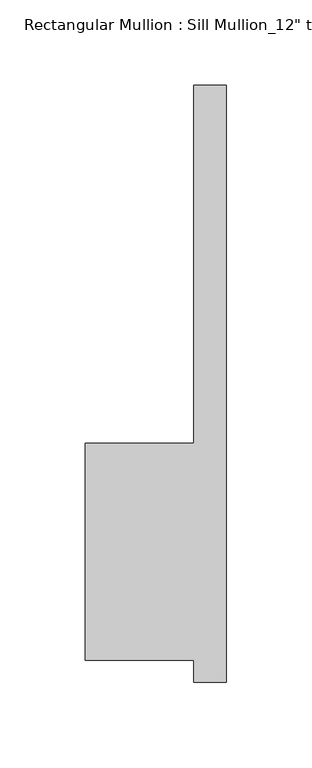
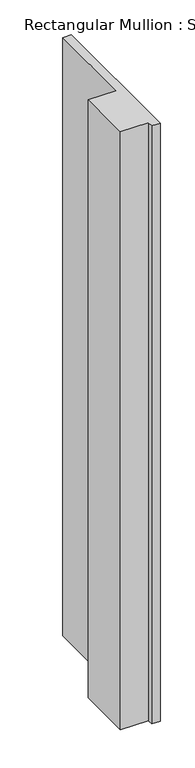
"""IFC4 building model written with IfcOpenShell, lengths in millimetres: member geometry."""

from ifc_helpers import new_model, si_unit, frame, origin, place, context, project, spatial, polyline, outline, extrude, source, transform, mapped, element, save


def member_1ed77558(model_context):
    return source(origin(), model_context, "Body", "SweptSolid", [
        extrude(outline(polyline([(-82.55, 50.8), (-19.05, 50.8), (-19.05, 260.35), (0.0, 260.35), (0.0, -88.9), (-19.05, -88.9), (-19.05, -76.2), (-82.55, -76.2), (-82.55, 50.8)])), frame((0.0, 0.0, -1435.1), z_axis=(0.0, 0.0, 1.0), x_axis=(1.0, 0.0, 0.0)), (0.0, 0.0, 1.0), 1435.1),
    ])


if __name__ == "__main__":
    model = new_model("IFC4")
    model_context = context("Model", 3, world=origin())
    ifc_project = project(units=[si_unit("LENGTHUNIT", "METRE", prefix="MILLI")], contexts=[model_context])
    site = spatial("IfcSite", under=ifc_project)
    building = spatial("IfcBuilding", under=site)
    placement = place(None, origin())
    member_shape = member_1ed77558(model_context)
    element("IfcMember", 1, ObjectType="Rectangular Mullion : Sill Mullion_12\" thick wall", at=placement, inside=building, context=model_context, shape_type="MappedRepresentation", body=[
        mapped(member_shape, transform((0.0, 0.0, 0.0), x_axis=(1.0, 0.0, 0.0), y_axis=(0.0, 1.0, 0.0), z_axis=(0.0, 0.0, 1.0))),
    ])
    save(model, "model.ifc")
